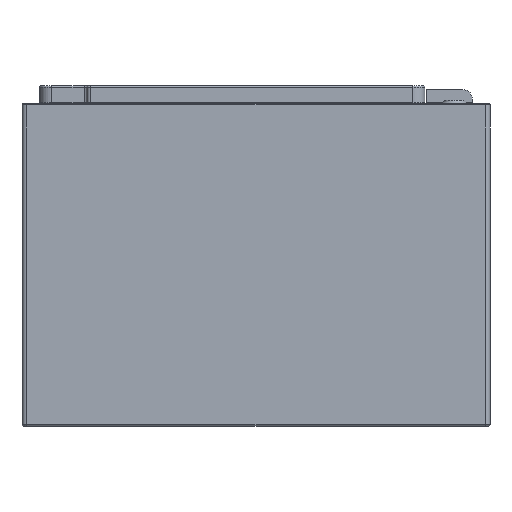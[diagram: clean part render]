
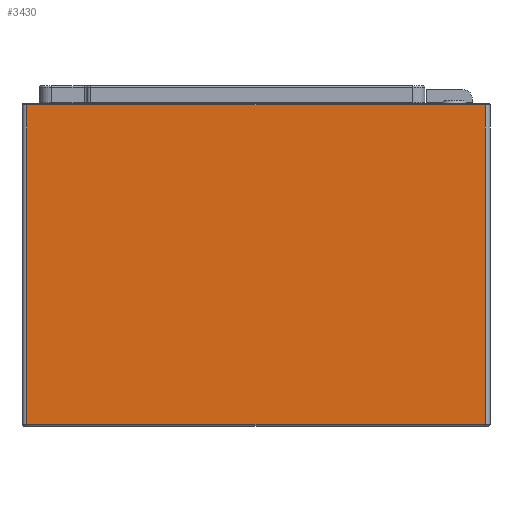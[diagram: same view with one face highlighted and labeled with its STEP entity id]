
A CAD part, front view. The second image highlights one B-rep face of the part: STEP entity #3430.
In plain terms, the highlighted planar face has unit normal (0, -1, 0).
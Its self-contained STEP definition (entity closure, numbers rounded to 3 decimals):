
#105 = ORIENTED_EDGE ( 'NONE', *, *, #1669, .F. ) ;
#302 = VECTOR ( 'NONE', #6437, 1000. ) ;
#368 = CARTESIAN_POINT ( 'NONE',  ( 4., 0., 271. ) ) ;
#765 = FACE_OUTER_BOUND ( 'NONE', #2642, .T. ) ;
#769 = CARTESIAN_POINT ( 'NONE',  ( 391., 0., 272. ) ) ;
#988 = VECTOR ( 'NONE', #4636, 1000. ) ;
#1092 = LINE ( 'NONE', #769, #6343 ) ;
#1276 = ORIENTED_EDGE ( 'NONE', *, *, #3508, .T. ) ;
#1669 = EDGE_CURVE ( 'NONE', #4906, #6374, #1092, .T. ) ;
#1727 = ORIENTED_EDGE ( 'NONE', *, *, #4916, .T. ) ;
#1734 = CARTESIAN_POINT ( 'NONE',  ( 4., 0., 272. ) ) ;
#1832 = VECTOR ( 'NONE', #3957, 1000. ) ;
#2012 = CARTESIAN_POINT ( 'NONE',  ( 4., 0., 1. ) ) ;
#2044 = CARTESIAN_POINT ( 'NONE',  ( 391., 0., 1. ) ) ;
#2059 = LINE ( 'NONE', #2643, #988 ) ;
#2642 = EDGE_LOOP ( 'NONE', ( #1727, #6147, #105, #1276 ) ) ;
#2643 = CARTESIAN_POINT ( 'NONE',  ( 4., 0., 272. ) ) ;
#3078 = AXIS2_PLACEMENT_3D ( 'NONE', #1734, #4709, #5785 ) ;
#3430 = ADVANCED_FACE ( 'NONE', ( #765 ), #5693, .F. ) ;
#3508 = EDGE_CURVE ( 'NONE', #4906, #6018, #4835, .T. ) ;
#3839 = CARTESIAN_POINT ( 'NONE',  ( 4., 0., 271. ) ) ;
#3957 = DIRECTION ( 'NONE',  ( -1., 0., 0. ) ) ;
#4400 = CARTESIAN_POINT ( 'NONE',  ( 4., 0., 1. ) ) ;
#4429 = VERTEX_POINT ( 'NONE', #4400 ) ;
#4636 = DIRECTION ( 'NONE',  ( 0., 0., -1. ) ) ;
#4709 = DIRECTION ( 'NONE',  ( 0., 1., 0. ) ) ;
#4835 = LINE ( 'NONE', #368, #1832 ) ;
#4906 = VERTEX_POINT ( 'NONE', #5000 ) ;
#4916 = EDGE_CURVE ( 'NONE', #6018, #4429, #2059, .T. ) ;
#5000 = CARTESIAN_POINT ( 'NONE',  ( 391., 0., 271. ) ) ;
#5693 = PLANE ( 'NONE',  #3078 ) ;
#5785 = DIRECTION ( 'NONE',  ( 0., 0., 1. ) ) ;
#5991 = LINE ( 'NONE', #2012, #302 ) ;
#6018 = VERTEX_POINT ( 'NONE', #3839 ) ;
#6147 = ORIENTED_EDGE ( 'NONE', *, *, #6290, .T. ) ;
#6246 = DIRECTION ( 'NONE',  ( 0., 0., -1. ) ) ;
#6290 = EDGE_CURVE ( 'NONE', #4429, #6374, #5991, .T. ) ;
#6343 = VECTOR ( 'NONE', #6246, 1000. ) ;
#6374 = VERTEX_POINT ( 'NONE', #2044 ) ;
#6437 = DIRECTION ( 'NONE',  ( 1., 0., 0. ) ) ;
